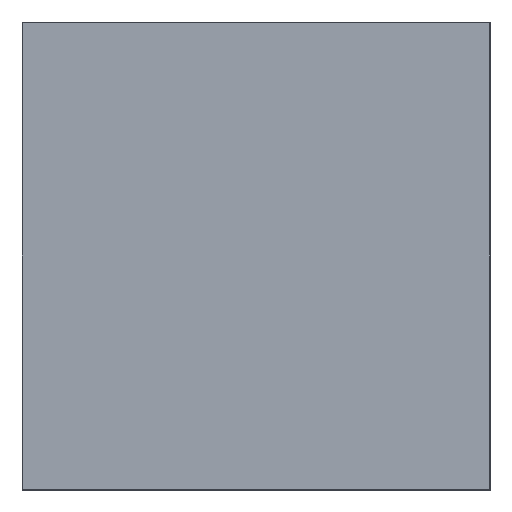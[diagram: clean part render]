
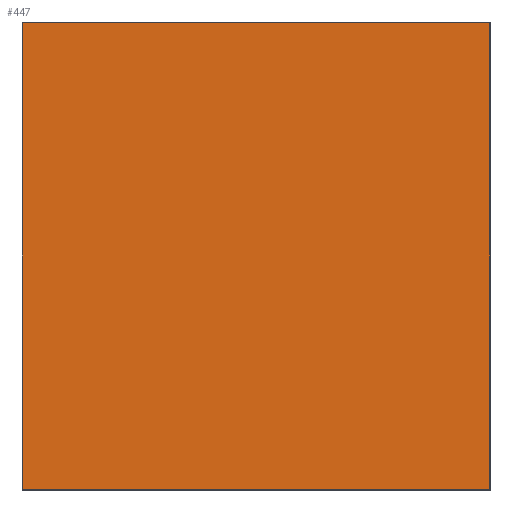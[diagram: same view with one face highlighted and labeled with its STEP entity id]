
A CAD part, left-side view. The second image highlights one B-rep face of the part: STEP entity #447.
In plain terms, the highlighted planar face has unit normal (-1, 0, 0).
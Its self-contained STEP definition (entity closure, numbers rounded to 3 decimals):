
#31=PLANE('',#492);
#35=LINE('',#651,#79);
#42=LINE('',#681,#86);
#46=LINE('',#687,#90);
#51=LINE('',#696,#95);
#79=VECTOR('',#522,599.);
#86=VECTOR('',#555,599.);
#90=VECTOR('',#563,598.);
#95=VECTOR('',#576,598.);
#154=FACE_OUTER_BOUND('',#184,.T.);
#184=EDGE_LOOP('',(#410,#411,#412,#413));
#209=VERTEX_POINT('',#644);
#211=VERTEX_POINT('',#649);
#217=VERTEX_POINT('',#670);
#220=VERTEX_POINT('',#677);
#248=EDGE_CURVE('',#211,#209,#35,.T.);
#263=EDGE_CURVE('',#217,#220,#42,.T.);
#267=EDGE_CURVE('',#209,#217,#46,.T.);
#272=EDGE_CURVE('',#211,#220,#51,.T.);
#410=ORIENTED_EDGE('',*,*,#248,.F.);
#411=ORIENTED_EDGE('',*,*,#272,.T.);
#412=ORIENTED_EDGE('',*,*,#263,.F.);
#413=ORIENTED_EDGE('',*,*,#267,.F.);
#447=ADVANCED_FACE('',(#154),#31,.T.);
#492=AXIS2_PLACEMENT_3D('',#748,#622,#623);
#522=DIRECTION('',(0.,1.,0.));
#555=DIRECTION('',(0.,-1.,0.));
#563=DIRECTION('',(0.,0.,1.));
#576=DIRECTION('',(0.,0.,1.));
#622=DIRECTION('center_axis',(-1.,0.,0.));
#623=DIRECTION('ref_axis',(0.,0.,1.));
#644=CARTESIAN_POINT('',(0.,599.,-599.));
#649=CARTESIAN_POINT('',(0.,0.,-599.));
#651=CARTESIAN_POINT('',(0.,0.,-599.));
#670=CARTESIAN_POINT('',(0.,599.,-1.));
#677=CARTESIAN_POINT('',(0.,0.,-1.));
#681=CARTESIAN_POINT('',(0.,0.,-1.));
#687=CARTESIAN_POINT('',(0.,599.,-450.));
#696=CARTESIAN_POINT('',(0.,0.,-600.));
#748=CARTESIAN_POINT('Origin',(0.,0.,-600.));
